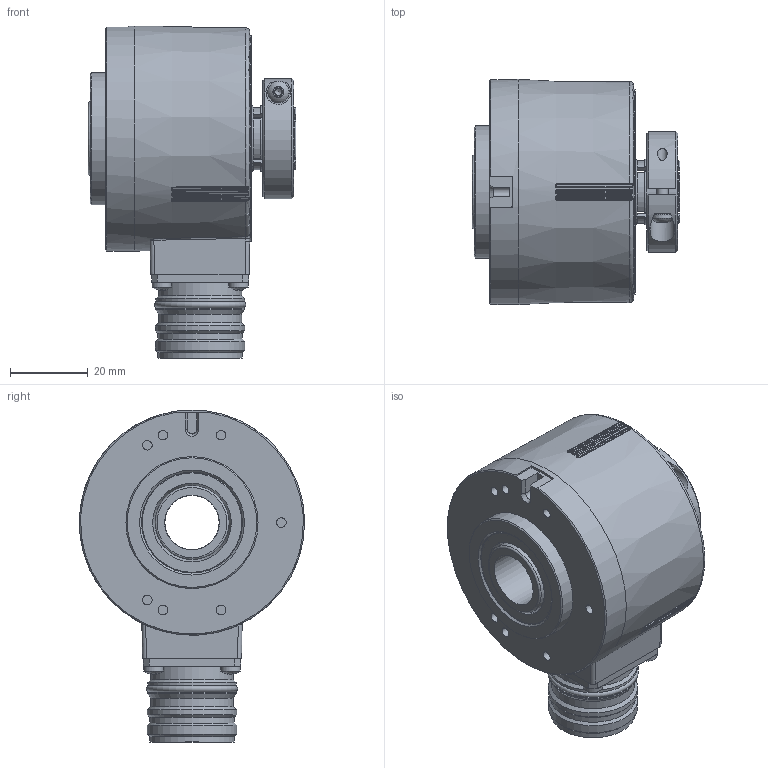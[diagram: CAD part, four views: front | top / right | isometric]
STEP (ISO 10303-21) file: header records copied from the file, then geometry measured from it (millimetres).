
FILE_DESCRIPTION( ( 'Unknown' ), '1' );
FILE_NAME( '//emea.baumernet.org/de05d/RD/caddy/k/GESAMT/EIL580/EIL580/3D/STEP/MarCom/EIL580-TPB4.7Fx.xxxxx.A.stp', 'Unknown', ( 'Unknown' ), ( 'Unknown' ), 'PSStep 19.0.9', 'Unknown', ' ' );
FILE_SCHEMA( ( 'AUTOMOTIVE_DESIGN { 1 0 10303 214 1 1 1 1 }' ) );
Length unit declared in the file: millimetre
Products named in the file (3): Assem1; 1_93; 2_26
Assembly tree (2 placements, depth 2):
  Assem1
    1_93
    2_26
Bounding box: 53.5 x 58 x 85.49 mm (x, y, z)
Volume: 108379.5 mm3; surface area: 26074.9 mm2
Topology: 2 solids, 18 shells, 764 faces, 1839 edges, 1168 vertices
Faces by surface type: plane 262, cylinder 185, extrusion 108, bspline 76, cone 69, torus 41, sphere 19, revolution 4
Full cylindrical faces by diameter (mm): 1 x12, 1.1 x12, 1.5 x1, 2.46 x15, 2.5 x4, 2.7 x4, 3 x1, 3.4 x1, 5 x4, 14 x1, 14.1 x1, 16.2 x1, 16.8 x1, 16.95 x1, 17.1 x1, 17.3 x1, 18.262 x1, 18.704 x1, 19 x2, 19.312 x1, 20 x1, 20.262 x1, 20.5 x1, 20.704 x1, 21.4 x2, 21.74 x2, 21.927 x1, 22.558 x1, 22.85 x2, 23 x2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
Entity records: 51130 total; most frequent: CARTESIAN_POINT 29004, ORIENTED_EDGE 3230, DIRECTION 2868, EDGE_CURVE 1615, VERTEX_POINT 1140, AXIS2_PLACEMENT_3D 1098, EDGE_LOOP 1033, FACE_OUTER_BOUND 873
